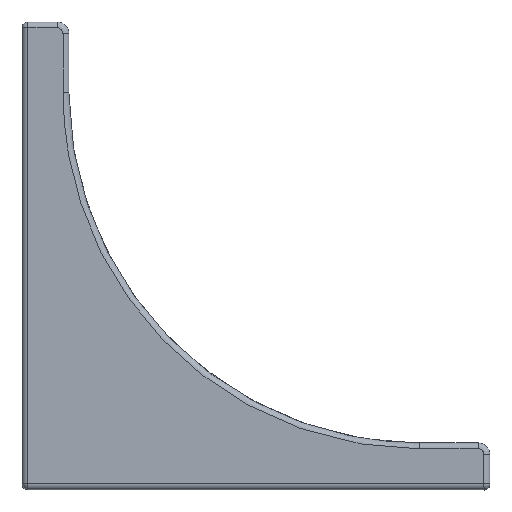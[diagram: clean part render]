
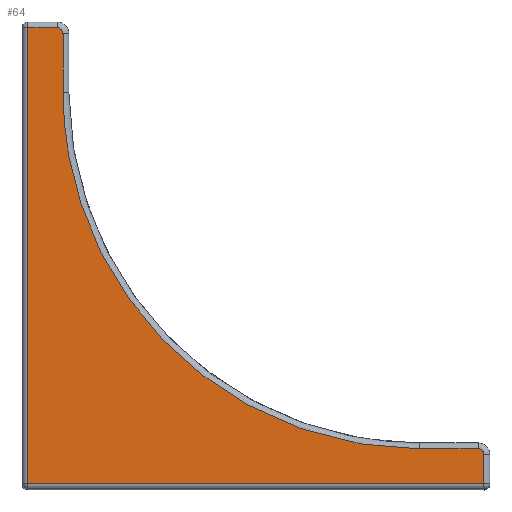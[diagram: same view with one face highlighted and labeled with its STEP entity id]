
A CAD part, top view. The second image highlights one B-rep face of the part: STEP entity #64.
In plain terms, the highlighted planar face has unit normal (-0.006, -0.006, 1).
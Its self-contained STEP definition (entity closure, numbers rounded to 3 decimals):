
#22 = CARTESIAN_POINT ( 'NONE',  ( 78.994, 0.994, 12.994 ) ) ;
#49 = VERTEX_POINT ( 'NONE', #2713 ) ;
#64 = ADVANCED_FACE ( 'NONE', ( #5149 ), #868, .T. ) ;
#101 = DIRECTION ( 'NONE',  ( 0., 1., 0.006 ) ) ;
#430 = DIRECTION ( 'NONE',  ( 0., 1., 0.006 ) ) ;
#560 = VERTEX_POINT ( 'NONE', #7650 ) ;
#608 = CARTESIAN_POINT ( 'NONE',  ( 32.261, 6.994, 12.742 ) ) ;
#704 =( BOUNDED_CURVE ( )  B_SPLINE_CURVE ( 3, ( #4797, #608, #2375, #3729 ),
 .UNSPECIFIED., .F., .F. ) 
 B_SPLINE_CURVE_WITH_KNOTS ( ( 4, 4 ),
 ( 2.356, 3.927 ),
 .UNSPECIFIED. ) 
 CURVE ( )  GEOMETRIC_REPRESENTATION_ITEM ( )  RATIONAL_B_SPLINE_CURVE ( ( 1., 0.805, 0.805, 1. ) ) 
 REPRESENTATION_ITEM ( '' )  );
#778 = EDGE_CURVE ( 'NONE', #49, #6669, #4614, .T. ) ;
#868 = PLANE ( 'NONE',  #2738 ) ;
#933 = CARTESIAN_POINT ( 'NONE',  ( 6.994, 78.58, 13.028 ) ) ;
#1040 = CARTESIAN_POINT ( 'NONE',  ( 68., 6.994, 12.963 ) ) ;
#1085 = VERTEX_POINT ( 'NONE', #4484 ) ;
#1231 = EDGE_LOOP ( 'NONE', ( #1489, #3182, #6654, #6883, #1788, #2988, #3560, #6631, #7577 ) ) ;
#1266 = LINE ( 'NONE', #4834, #5602 ) ;
#1302 = CARTESIAN_POINT ( 'NONE',  ( 6., 78.994, 13.024 ) ) ;
#1442 = EDGE_CURVE ( 'NONE', #49, #4048, #3295, .T. ) ;
#1489 = ORIENTED_EDGE ( 'NONE', *, *, #7539, .T. ) ;
#1498 =( BOUNDED_CURVE ( )  B_SPLINE_CURVE ( 3, ( #4419, #6302, #933, #5172 ),
 .UNSPECIFIED., .F., .F. ) 
 B_SPLINE_CURVE_WITH_KNOTS ( ( 4, 4 ),
 ( 2.356, 3.927 ),
 .UNSPECIFIED. ) 
 CURVE ( )  GEOMETRIC_REPRESENTATION_ITEM ( )  RATIONAL_B_SPLINE_CURVE ( ( 1., 0.805, 0.805, 1. ) ) 
 REPRESENTATION_ITEM ( '' )  );
#1607 = VERTEX_POINT ( 'NONE', #7540 ) ;
#1788 = ORIENTED_EDGE ( 'NONE', *, *, #778, .F. ) ;
#2079 = EDGE_CURVE ( 'NONE', #2869, #1607, #4843, .T. ) ;
#2257 = VERTEX_POINT ( 'NONE', #3016 ) ;
#2375 = CARTESIAN_POINT ( 'NONE',  ( 6.994, 32.261, 12.742 ) ) ;
#2590 = CARTESIAN_POINT ( 'NONE',  ( 78.994, 5.994, 13.024 ) ) ;
#2646 = DIRECTION ( 'NONE',  ( 1., 0., 0.006 ) ) ;
#2713 = CARTESIAN_POINT ( 'NONE',  ( 0.994, 0.994, 12.512 ) ) ;
#2738 = AXIS2_PLACEMENT_3D ( 'NONE', #6914, #7460, #3962 ) ;
#2869 = VERTEX_POINT ( 'NONE', #2590 ) ;
#2937 = CARTESIAN_POINT ( 'NONE',  ( 0.994, 79., 12.994 ) ) ;
#2988 = ORIENTED_EDGE ( 'NONE', *, *, #1442, .T. ) ;
#3016 = CARTESIAN_POINT ( 'NONE',  ( 67.994, 6.994, 12.963 ) ) ;
#3027 = VECTOR ( 'NONE', #7593, 1000. ) ;
#3182 = ORIENTED_EDGE ( 'NONE', *, *, #7673, .F. ) ;
#3295 = LINE ( 'NONE', #3922, #3531 ) ;
#3531 = VECTOR ( 'NONE', #2646, 1000. ) ;
#3560 = ORIENTED_EDGE ( 'NONE', *, *, #3591, .T. ) ;
#3591 = EDGE_CURVE ( 'NONE', #4048, #2869, #1266, .T. ) ;
#3729 = CARTESIAN_POINT ( 'NONE',  ( 6.994, 67.994, 12.963 ) ) ;
#3899 = LINE ( 'NONE', #1040, #3027 ) ;
#3922 = CARTESIAN_POINT ( 'NONE',  ( 79., 0.994, 12.994 ) ) ;
#3962 = DIRECTION ( 'NONE',  ( 1., 0., 0.006 ) ) ;
#4048 = VERTEX_POINT ( 'NONE', #22 ) ;
#4112 = VECTOR ( 'NONE', #5937, 1000. ) ;
#4181 = VERTEX_POINT ( 'NONE', #5805 ) ;
#4410 = CARTESIAN_POINT ( 'NONE',  ( 78.994, 6.58, 13.028 ) ) ;
#4419 = CARTESIAN_POINT ( 'NONE',  ( 5.994, 78.994, 13.024 ) ) ;
#4484 = CARTESIAN_POINT ( 'NONE',  ( 6.994, 77.994, 13.024 ) ) ;
#4528 = CARTESIAN_POINT ( 'NONE',  ( 78.994, 5.994, 13.024 ) ) ;
#4614 = LINE ( 'NONE', #2937, #6045 ) ;
#4634 = VECTOR ( 'NONE', #5688, 1000. ) ;
#4797 = CARTESIAN_POINT ( 'NONE',  ( 67.994, 6.994, 12.963 ) ) ;
#4834 = CARTESIAN_POINT ( 'NONE',  ( 78.994, 6., 13.024 ) ) ;
#4843 =( BOUNDED_CURVE ( )  B_SPLINE_CURVE ( 3, ( #4528, #4410, #7433, #7552 ),
 .UNSPECIFIED., .F., .F. ) 
 B_SPLINE_CURVE_WITH_KNOTS ( ( 4, 4 ),
 ( 2.356, 3.927 ),
 .UNSPECIFIED. ) 
 CURVE ( )  GEOMETRIC_REPRESENTATION_ITEM ( )  RATIONAL_B_SPLINE_CURVE ( ( 1., 0.805, 0.805, 1. ) ) 
 REPRESENTATION_ITEM ( '' )  );
#4909 = EDGE_CURVE ( 'NONE', #1607, #2257, #3899, .T. ) ;
#4947 = CARTESIAN_POINT ( 'NONE',  ( 0.994, 78.994, 12.994 ) ) ;
#5100 = CARTESIAN_POINT ( 'NONE',  ( 6.994, 68., 12.963 ) ) ;
#5149 = FACE_OUTER_BOUND ( 'NONE', #1231, .T. ) ;
#5172 = CARTESIAN_POINT ( 'NONE',  ( 6.994, 77.994, 13.024 ) ) ;
#5602 = VECTOR ( 'NONE', #101, 1000. ) ;
#5688 = DIRECTION ( 'NONE',  ( 0., -1., -0.006 ) ) ;
#5805 = CARTESIAN_POINT ( 'NONE',  ( 5.994, 78.994, 13.024 ) ) ;
#5862 = EDGE_CURVE ( 'NONE', #4181, #1085, #1498, .T. ) ;
#5937 = DIRECTION ( 'NONE',  ( 1., 0., 0.006 ) ) ;
#6045 = VECTOR ( 'NONE', #430, 1000. ) ;
#6302 = CARTESIAN_POINT ( 'NONE',  ( 6.58, 78.994, 13.028 ) ) ;
#6521 = LINE ( 'NONE', #1302, #4112 ) ;
#6578 = EDGE_CURVE ( 'NONE', #6669, #4181, #6521, .T. ) ;
#6631 = ORIENTED_EDGE ( 'NONE', *, *, #2079, .T. ) ;
#6654 = ORIENTED_EDGE ( 'NONE', *, *, #5862, .F. ) ;
#6669 = VERTEX_POINT ( 'NONE', #4947 ) ;
#6883 = ORIENTED_EDGE ( 'NONE', *, *, #6578, .F. ) ;
#6914 = CARTESIAN_POINT ( 'NONE',  ( 0., 0., 12.5 ) ) ;
#7433 = CARTESIAN_POINT ( 'NONE',  ( 78.58, 6.994, 13.028 ) ) ;
#7457 = LINE ( 'NONE', #5100, #4634 ) ;
#7460 = DIRECTION ( 'NONE',  ( -0.006, -0.006, 1. ) ) ;
#7539 = EDGE_CURVE ( 'NONE', #2257, #560, #704, .T. ) ;
#7540 = CARTESIAN_POINT ( 'NONE',  ( 77.994, 6.994, 13.024 ) ) ;
#7552 = CARTESIAN_POINT ( 'NONE',  ( 77.994, 6.994, 13.024 ) ) ;
#7577 = ORIENTED_EDGE ( 'NONE', *, *, #4909, .T. ) ;
#7593 = DIRECTION ( 'NONE',  ( -1., 0., -0.006 ) ) ;
#7650 = CARTESIAN_POINT ( 'NONE',  ( 6.994, 67.994, 12.963 ) ) ;
#7673 = EDGE_CURVE ( 'NONE', #1085, #560, #7457, .T. ) ;
